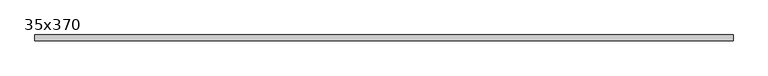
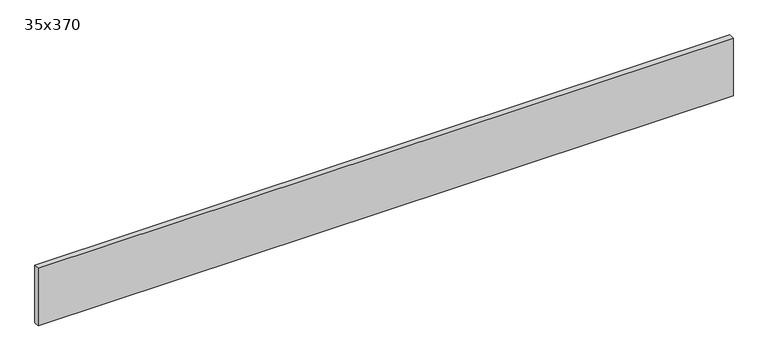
"""IFC4 building model written with IfcOpenShell, lengths in millimetres: beam geometry, Poutre - Lamellé-collé - Espèces occidentales : 35x370."""

from ifc_helpers import new_model, si_unit, frame, origin, place, context, project, spatial, polyline, outline, extrude, source, transform, mapped, element, save


def beam_35x370_4541d8ee(model_context):
    return source(origin(), model_context, "Body", "SweptSolid", [
        extrude(outline(polyline([(2114.0049357, 17.5), (2114.0049357, -17.5), (-2110.1434524, -17.5), (-2110.1434524, 17.5), (2114.0049357, 17.5)])), frame((0.0, 0.0, -185.0), z_axis=(0.0, 0.0, 1.0), x_axis=(1.0, 0.0, 0.0)), (0.0, 0.0, 1.0), 370.0),
    ])


if __name__ == "__main__":
    model = new_model("IFC4")
    model_context = context("Model", 3, world=origin())
    ifc_project = project(units=[si_unit("LENGTHUNIT", "METRE", prefix="MILLI")], contexts=[model_context])
    site = spatial("IfcSite", under=ifc_project)
    building = spatial("IfcBuilding", under=site)
    placement = place(None, origin())
    beam_35x370_shape = beam_35x370_4541d8ee(model_context)
    element("IfcBeam", 1, ObjectType="Poutre - Lamellé-collé - Espèces occidentales : 35x370", at=placement, inside=building, context=model_context, shape_type="MappedRepresentation", body=[
        mapped(beam_35x370_shape, transform((0.0, 0.0, 0.0), x_axis=(1.0, 0.0, 0.0), y_axis=(0.0, 1.0, 0.0), z_axis=(0.0, 0.0, 1.0))),
    ])
    save(model, "model.ifc")
